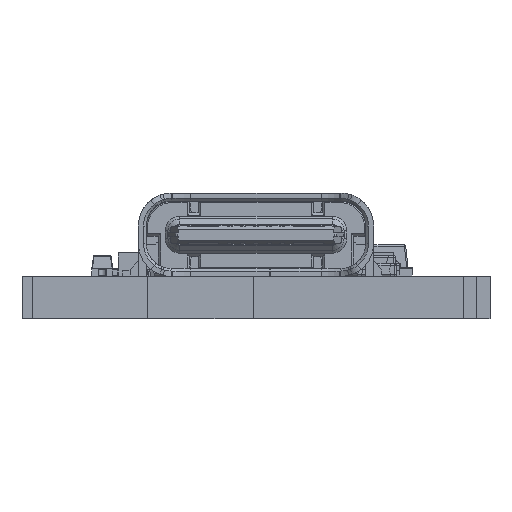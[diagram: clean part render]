
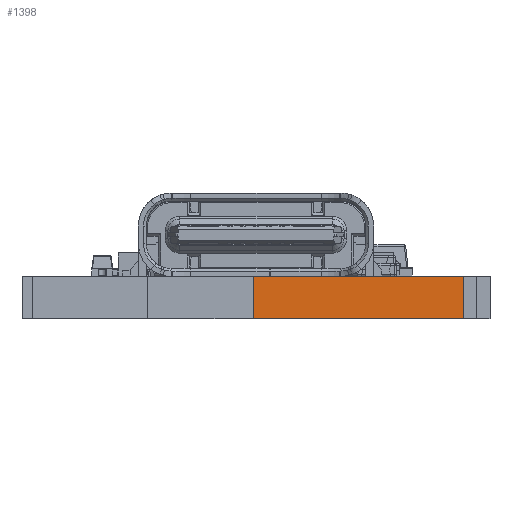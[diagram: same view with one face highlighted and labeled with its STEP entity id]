
A CAD part, left-side view. The second image highlights one B-rep face of the part: STEP entity #1398.
In plain terms, the highlighted planar face has unit normal (-1, 0, 0).
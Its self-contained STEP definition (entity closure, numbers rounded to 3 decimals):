
#1371 = EDGE_CURVE('',#1372,#1374,#1376,.T.);
#1372 = VERTEX_POINT('',#1373);
#1373 = CARTESIAN_POINT('',(0.,9.,0.));
#1374 = VERTEX_POINT('',#1375);
#1375 = CARTESIAN_POINT('',(0.,9.,1.606));
#1376 = LINE('',#1377,#1378);
#1377 = CARTESIAN_POINT('',(0.,9.,0.));
#1378 = VECTOR('',#1379,1.);
#1379 = DIRECTION('',(0.,0.,1.));
#1398 = ADVANCED_FACE('',(#1399),#1424,.T.);
#1399 = FACE_BOUND('',#1400,.T.);
#1400 = EDGE_LOOP('',(#1401,#1411,#1417,#1418));
#1401 = ORIENTED_EDGE('',*,*,#1402,.T.);
#1402 = EDGE_CURVE('',#1403,#1405,#1407,.T.);
#1403 = VERTEX_POINT('',#1404);
#1404 = CARTESIAN_POINT('',(0.,1.005,0.));
#1405 = VERTEX_POINT('',#1406);
#1406 = CARTESIAN_POINT('',(0.,1.005,1.606));
#1407 = LINE('',#1408,#1409);
#1408 = CARTESIAN_POINT('',(0.,1.005,0.));
#1409 = VECTOR('',#1410,1.);
#1410 = DIRECTION('',(0.,0.,1.));
#1411 = ORIENTED_EDGE('',*,*,#1412,.T.);
#1412 = EDGE_CURVE('',#1405,#1374,#1413,.T.);
#1413 = LINE('',#1414,#1415);
#1414 = CARTESIAN_POINT('',(0.,0.,1.606));
#1415 = VECTOR('',#1416,1.);
#1416 = DIRECTION('',(0.,1.,0.));
#1417 = ORIENTED_EDGE('',*,*,#1371,.F.);
#1418 = ORIENTED_EDGE('',*,*,#1419,.F.);
#1419 = EDGE_CURVE('',#1403,#1372,#1420,.T.);
#1420 = LINE('',#1421,#1422);
#1421 = CARTESIAN_POINT('',(0.,0.,0.));
#1422 = VECTOR('',#1423,1.);
#1423 = DIRECTION('',(0.,1.,0.));
#1424 = PLANE('',#1425);
#1425 = AXIS2_PLACEMENT_3D('',#1426,#1427,#1428);
#1426 = CARTESIAN_POINT('',(0.,1.005,0.));
#1427 = DIRECTION('',(-1.,0.,0.));
#1428 = DIRECTION('',(0.,1.,0.));
